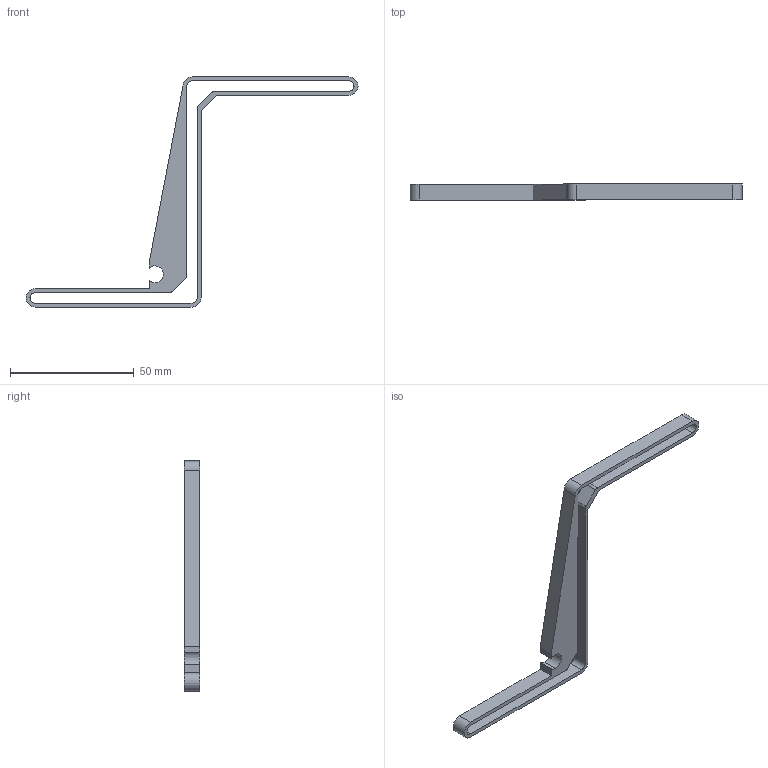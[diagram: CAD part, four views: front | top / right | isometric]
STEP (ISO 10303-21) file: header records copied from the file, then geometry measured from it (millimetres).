
FILE_DESCRIPTION (( 'STEP AP214' ), '1' );
FILE_NAME ('6 - Tan Slider.STEP', '2022-11-25T05:44:51', ( '' ), ( '' ), 'SwSTEP 2.0', 'SolidWorks 2021', '' );
FILE_SCHEMA (( 'AUTOMOTIVE_DESIGN' ));
Length unit declared in the file: inch
Products named in the file (1): 6 - Tan Slider
Bounding box: 134.37 x 6.35 x 93.09 mm (x, y, z)
Volume: 8125.1 mm3; surface area: 8080.7 mm2
Topology: 1 solids, 1 shells, 34 faces, 96 edges, 64 vertices
Faces by surface type: plane 19, cylinder 15
Entity records: 1154 total; most frequent: DIRECTION 196, CARTESIAN_POINT 195, ORIENTED_EDGE 192, EDGE_CURVE 96, VECTOR 66, LINE 66, AXIS2_PLACEMENT_3D 65, VERTEX_POINT 64
